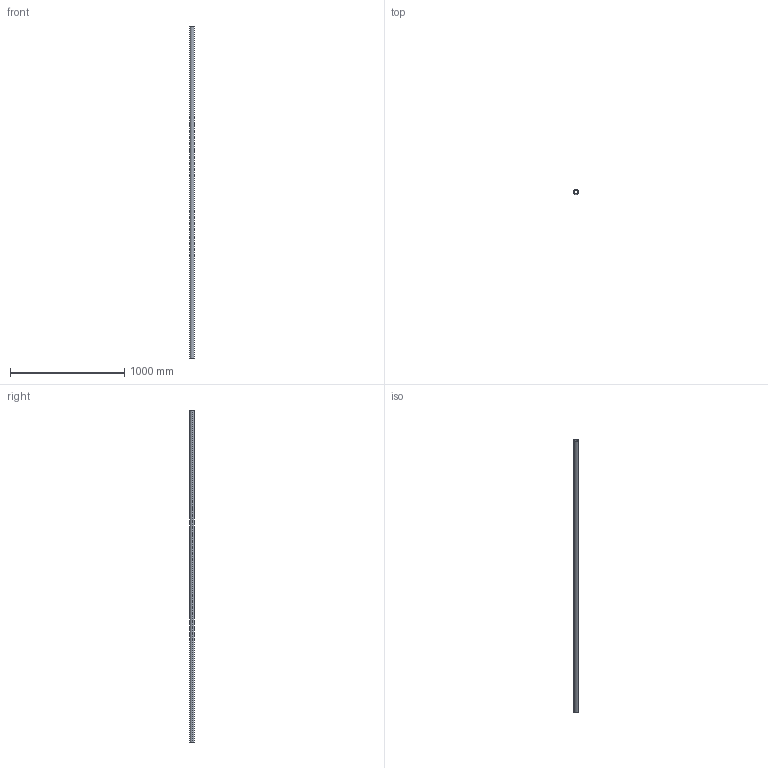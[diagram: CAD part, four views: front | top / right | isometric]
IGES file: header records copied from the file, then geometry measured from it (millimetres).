
Start section: SolidWorks IGES file using analytic representation for surfaces
Global section: file name: C:\Users\IanO\Desktop\L1771_v2\L1771.40_v2\L1771.40_v2_20230705_IGES\L1771.40-2900.igs; native system: SolidWorks 2019; preprocessor: SolidWorks 2019; author: IanO; date: 230705.161536; units: millimetre
Bounding box: 40 x 40 x 2900 mm (x, y, z)
Surface area: 620803.8 mm2 (no closed solid volume)
Topology: 0 solids, 0 shells, 6 faces, 272 edges, 272 vertices
Faces by surface type: revolution 4, bspline 2
